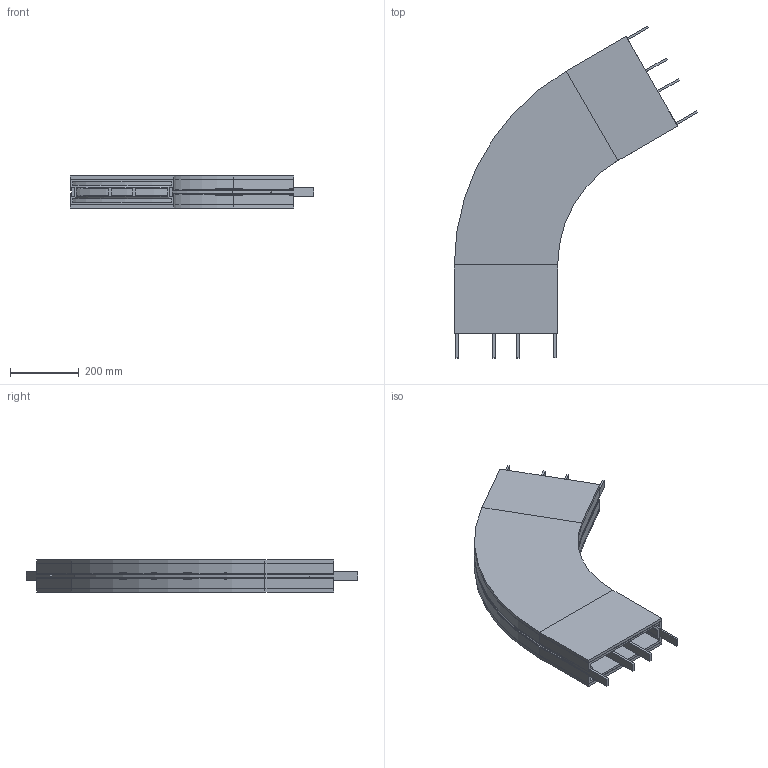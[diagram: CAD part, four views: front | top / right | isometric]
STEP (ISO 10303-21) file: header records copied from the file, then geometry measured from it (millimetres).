
FILE_DESCRIPTION (( 'STEP AP214' ), '1' );
FILE_NAME ('FBBP 60A300R500L200L200.00.step', '2026-05-29T10:20:36', ( '' ), ( '' ), 'SwSTEP 2.0', 'SolidWorks 2024', '' );
FILE_SCHEMA (( 'AUTOMOTIVE_DESIGN' ));
Length unit declared in the file: millimetre
Products named in the file (1): FBBP 60A300R500L200L200.00
Bounding box: 706.4 x 963.72 x 93 mm (x, y, z)
Volume: 10141672.1 mm3; surface area: 2660005 mm2
Topology: 11 solids, 11 shells, 375 faces, 845 edges, 492 vertices
Faces by surface type: plane 274, cone 66, cylinder 30, torus 5
Entity records: 10191 total; most frequent: DIRECTION 1724, CARTESIAN_POINT 1713, ORIENTED_EDGE 1690, EDGE_CURVE 845, LINE 718, VECTOR 718, AXIS2_PLACEMENT_3D 503, VERTEX_POINT 492
